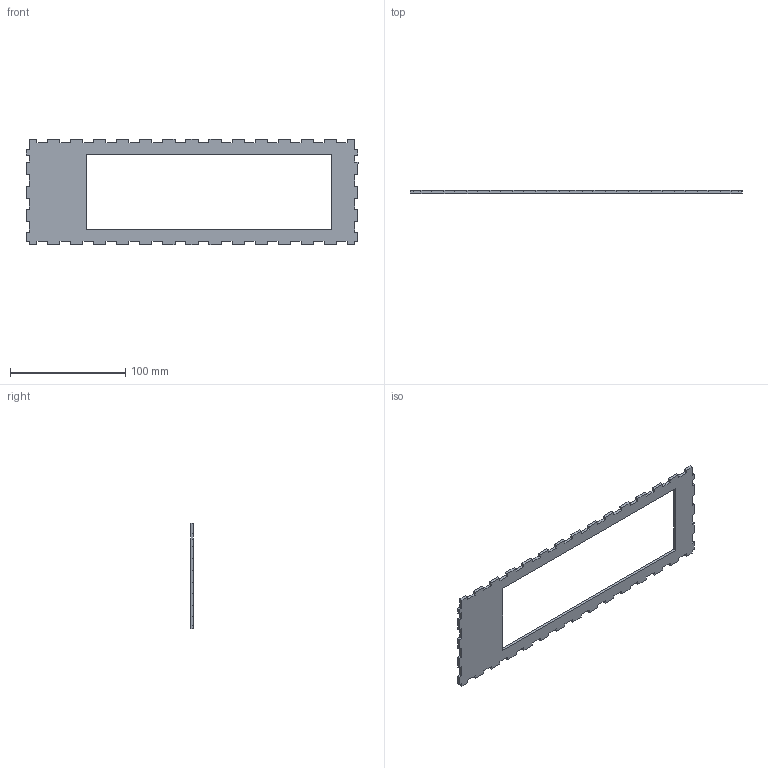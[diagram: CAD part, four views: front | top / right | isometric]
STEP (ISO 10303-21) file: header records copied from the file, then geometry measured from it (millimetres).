
FILE_DESCRIPTION (( 'STEP AP214' ), '1' );
FILE_NAME ('cardstop.STEP', '2025-06-15T00:43:03', ( '' ), ( '' ), 'SwSTEP 2.0', 'SolidWorks 2024', '' );
FILE_SCHEMA (( 'AUTOMOTIVE_DESIGN' ));
Length unit declared in the file: millimetre
Products named in the file (1): cardstop
Bounding box: 288.6 x 2.5 x 91.6 mm (x, y, z)
Volume: 28418.9 mm3; surface area: 26535.1 mm2
Topology: 1 solids, 1 shells, 162 faces, 480 edges, 320 vertices
Faces by surface type: plane 162
Entity records: 5331 total; most frequent: CARTESIAN_POINT 963, ORIENTED_EDGE 960, DIRECTION 806, EDGE_CURVE 480, VECTOR 480, LINE 480, VERTEX_POINT 320, EDGE_LOOP 164
